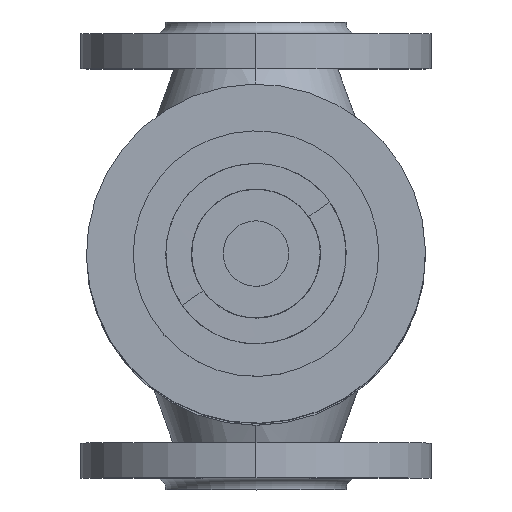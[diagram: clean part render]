
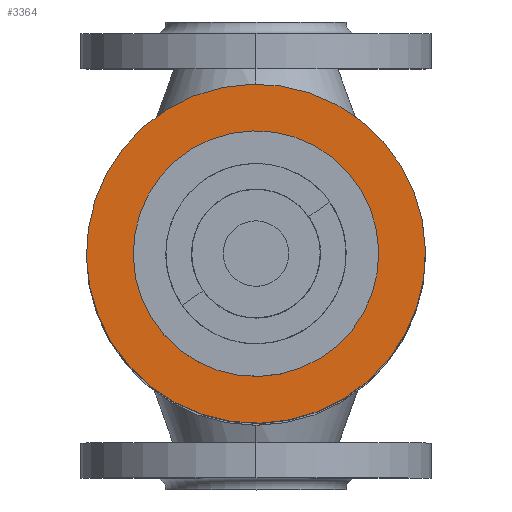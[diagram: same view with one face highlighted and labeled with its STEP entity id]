
A CAD part, top view. The second image highlights one B-rep face of the part: STEP entity #3364.
In plain terms, the highlighted planar face has unit normal (0, 0, 1).
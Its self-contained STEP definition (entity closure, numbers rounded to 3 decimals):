
#149 = CIRCLE ( 'NONE', #3774, 72.5 ) ;
#199 = AXIS2_PLACEMENT_3D ( 'NONE', #2038, #6498, #1915 ) ;
#953 = CARTESIAN_POINT ( 'NONE',  ( 1.502, 4.816, 84.099 ) ) ;
#1105 = ORIENTED_EDGE ( 'NONE', *, *, #11290, .F. ) ;
#1287 = AXIS2_PLACEMENT_3D ( 'NONE', #3612, #10992, #1841 ) ;
#1732 = CIRCLE ( 'NONE', #8503, 52.5 ) ;
#1833 = VERTEX_POINT ( 'NONE', #6011 ) ;
#1841 = DIRECTION ( 'NONE',  ( 0., -1., 0. ) ) ;
#1915 = DIRECTION ( 'NONE',  ( -1., 0., 0. ) ) ;
#2038 = CARTESIAN_POINT ( 'NONE',  ( 1.502, 4.816, 84.099 ) ) ;
#2045 = ORIENTED_EDGE ( 'NONE', *, *, #2650, .T. ) ;
#2641 = DIRECTION ( 'NONE',  ( 0., 0., -1. ) ) ;
#2650 = EDGE_CURVE ( 'NONE', #1833, #9053, #10605, .T. ) ;
#2690 = EDGE_CURVE ( 'NONE', #9053, #1833, #1732, .T. ) ;
#3271 = EDGE_LOOP ( 'NONE', ( #4298, #1105 ) ) ;
#3364 = ADVANCED_FACE ( 'NONE', ( #9137, #5565 ), #4527, .F. ) ;
#3612 = CARTESIAN_POINT ( 'NONE',  ( 28.106, -40.14, 84.099 ) ) ;
#3774 = AXIS2_PLACEMENT_3D ( 'NONE', #8760, #6146, #7911 ) ;
#4134 = VERTEX_POINT ( 'NONE', #6587 ) ;
#4298 = ORIENTED_EDGE ( 'NONE', *, *, #5185, .F. ) ;
#4521 = EDGE_LOOP ( 'NONE', ( #11758, #2045 ) ) ;
#4527 = PLANE ( 'NONE',  #1287 ) ;
#5185 = EDGE_CURVE ( 'NONE', #4134, #11314, #149, .T. ) ;
#5565 = FACE_OUTER_BOUND ( 'NONE', #3271, .T. ) ;
#5645 = DIRECTION ( 'NONE',  ( -1., 0., 0. ) ) ;
#6011 = CARTESIAN_POINT ( 'NONE',  ( -6.282, -47.103, 84.099 ) ) ;
#6146 = DIRECTION ( 'NONE',  ( 0., 0., -1. ) ) ;
#6498 = DIRECTION ( 'NONE',  ( 0., 0., -1. ) ) ;
#6587 = CARTESIAN_POINT ( 'NONE',  ( -70.196, 15.566, 84.099 ) ) ;
#7185 = CARTESIAN_POINT ( 'NONE',  ( 9.286, 56.736, 84.099 ) ) ;
#7456 = CIRCLE ( 'NONE', #11858, 72.5 ) ;
#7911 = DIRECTION ( 'NONE',  ( -1., 0., 0. ) ) ;
#8503 = AXIS2_PLACEMENT_3D ( 'NONE', #10225, #10167, #5645 ) ;
#8760 = CARTESIAN_POINT ( 'NONE',  ( 1.502, 4.816, 84.099 ) ) ;
#9053 = VERTEX_POINT ( 'NONE', #7185 ) ;
#9137 = FACE_BOUND ( 'NONE', #4521, .T. ) ;
#9994 = CARTESIAN_POINT ( 'NONE',  ( 73.201, -5.933, 84.099 ) ) ;
#10167 = DIRECTION ( 'NONE',  ( 0., 0., -1. ) ) ;
#10225 = CARTESIAN_POINT ( 'NONE',  ( 1.502, 4.816, 84.099 ) ) ;
#10605 = CIRCLE ( 'NONE', #199, 52.5 ) ;
#10992 = DIRECTION ( 'NONE',  ( 0., 0., -1. ) ) ;
#11290 = EDGE_CURVE ( 'NONE', #11314, #4134, #7456, .T. ) ;
#11314 = VERTEX_POINT ( 'NONE', #9994 ) ;
#11758 = ORIENTED_EDGE ( 'NONE', *, *, #2690, .T. ) ;
#11858 = AXIS2_PLACEMENT_3D ( 'NONE', #953, #2641, #11915 ) ;
#11915 = DIRECTION ( 'NONE',  ( -1., 0., 0. ) ) ;
